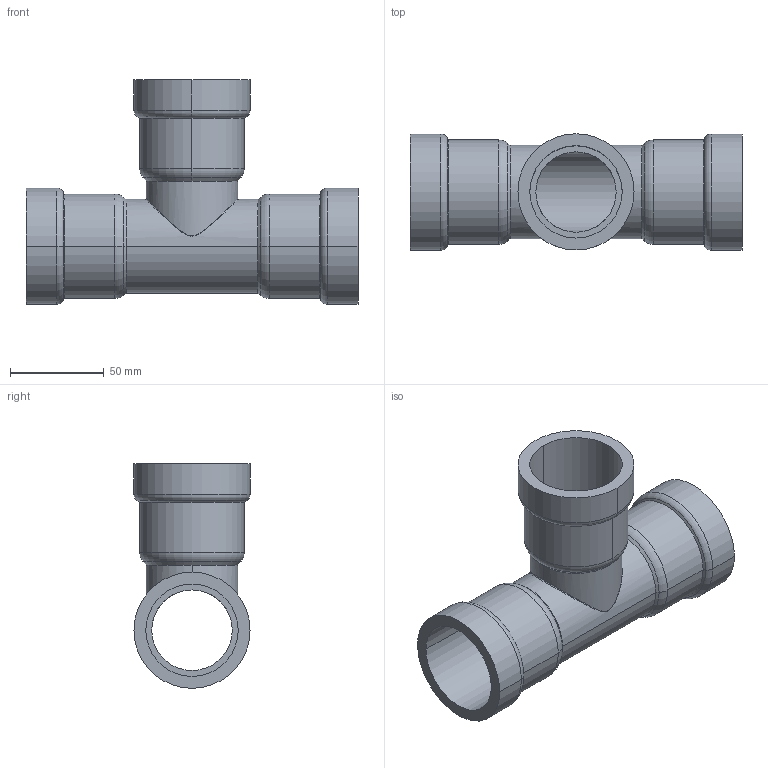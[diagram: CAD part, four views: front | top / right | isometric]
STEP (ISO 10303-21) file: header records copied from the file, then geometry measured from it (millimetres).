
FILE_DESCRIPTION(('Creo Elements/Direct Modeling STEP Export'),'2;1');
FILE_NAME('C9414_1-1-2.stp','2020-07-14T16:54:41',(''),(''),'PTC Creo Elements/Direct Modeling STEP processor for AP214 (Solid Model)','PTC Creo Elements/Direct Modeling 19.0C 15-Aug-2015 (C) Parametric Technology GmbH','');
FILE_SCHEMA(('AUTOMOTIVE_DESIGN { 1 0 10303 214 1 1 1 1 }'));
Length unit declared in the file: millimetre
Products named in the file (1): 9414_1-1-2
Bounding box: 177.18 x 62 x 119.88 mm (x, y, z)
Volume: 157449.5 mm3; surface area: 81756.8 mm2
Topology: 1 solids, 1 shells, 60 faces, 132 edges, 78 vertices
Faces by surface type: cylinder 26, torus 12, cone 12, plane 6, bspline 4
Entity records: 7412 total; most frequent: CARTESIAN_POINT 6203, ORIENTED_EDGE 264, DIRECTION 236, EDGE_CURVE 132, AXIS2_PLACEMENT_3D 99, VERTEX_POINT 78, EDGE_LOOP 68, FACE_OUTER_BOUND 60
